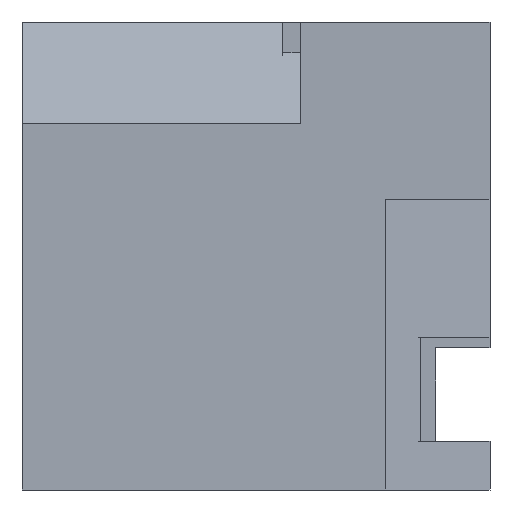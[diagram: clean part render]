
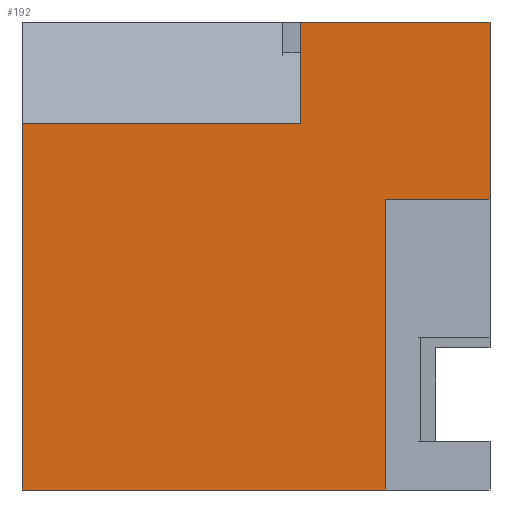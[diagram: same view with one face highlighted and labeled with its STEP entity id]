
A CAD part, left-side view. The second image highlights one B-rep face of the part: STEP entity #192.
In plain terms, the highlighted planar face has unit normal (-1, 0, 0).
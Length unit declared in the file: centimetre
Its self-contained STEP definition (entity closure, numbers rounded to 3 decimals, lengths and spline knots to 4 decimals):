
#60 = CARTESIAN_POINT ( 'NONE',  ( 0., 405.3966, 1000. ) ) ;
#68 = CARTESIAN_POINT ( 'NONE',  ( 0., 1000., 1000. ) ) ;
#93 = LINE ( 'NONE', #1586, #104 ) ;
#104 = VECTOR ( 'NONE', #452, 100. ) ;
#117 = VERTEX_POINT ( 'NONE', #1577 ) ;
#118 = CARTESIAN_POINT ( 'NONE',  ( 0., 1000., 1000. ) ) ;
#133 = VECTOR ( 'NONE', #1251, 100. ) ;
#192 = ADVANCED_FACE ( 'NONE', ( #1007 ), #1394, .F. ) ;
#193 = LINE ( 'NONE', #68, #425 ) ;
#195 = ORIENTED_EDGE ( 'NONE', *, *, #775, .T. ) ;
#230 = LINE ( 'NONE', #510, #133 ) ;
#272 = CARTESIAN_POINT ( 'NONE',  ( 0., 405.3966, 783.8788 ) ) ;
#307 = CARTESIAN_POINT ( 'NONE',  ( 0., 1000., 0. ) ) ;
#329 = LINE ( 'NONE', #1110, #972 ) ;
#339 = ORIENTED_EDGE ( 'NONE', *, *, #550, .F. ) ;
#358 = DIRECTION ( 'NONE',  ( 0., 0., -1. ) ) ;
#364 = VECTOR ( 'NONE', #1281, 100. ) ;
#368 = EDGE_CURVE ( 'NONE', #1351, #1359, #667, .T. ) ;
#381 = DIRECTION ( 'NONE',  ( 1., 0., 0. ) ) ;
#404 = LINE ( 'NONE', #893, #1071 ) ;
#425 = VECTOR ( 'NONE', #1357, 100. ) ;
#452 = DIRECTION ( 'NONE',  ( 0., -1., 0. ) ) ;
#473 = EDGE_CURVE ( 'NONE', #1095, #1608, #863, .T. ) ;
#485 = EDGE_CURVE ( 'NONE', #1239, #1095, #93, .T. ) ;
#510 = CARTESIAN_POINT ( 'NONE',  ( 0., 224.2161, 621.4028 ) ) ;
#512 = CARTESIAN_POINT ( 'NONE',  ( 0., 1000., 783.8788 ) ) ;
#550 = EDGE_CURVE ( 'NONE', #117, #1239, #329, .T. ) ;
#583 = EDGE_CURVE ( 'NONE', #922, #1359, #230, .T. ) ;
#606 = DIRECTION ( 'NONE',  ( 0., 0., 1. ) ) ;
#636 = ORIENTED_EDGE ( 'NONE', *, *, #1148, .T. ) ;
#641 = LINE ( 'NONE', #272, #364 ) ;
#667 = LINE ( 'NONE', #1040, #1585 ) ;
#775 = EDGE_CURVE ( 'NONE', #1511, #1351, #193, .T. ) ;
#820 = VECTOR ( 'NONE', #358, 100. ) ;
#863 = LINE ( 'NONE', #947, #820 ) ;
#878 = ORIENTED_EDGE ( 'NONE', *, *, #473, .F. ) ;
#893 = CARTESIAN_POINT ( 'NONE',  ( 0., 0., 621.4028 ) ) ;
#922 = VERTEX_POINT ( 'NONE', #1255 ) ;
#947 = CARTESIAN_POINT ( 'NONE',  ( 0., 0., 1000. ) ) ;
#972 = VECTOR ( 'NONE', #606, 100. ) ;
#999 = DIRECTION ( 'NONE',  ( 0., 0., -1. ) ) ;
#1007 = FACE_OUTER_BOUND ( 'NONE', #1226, .T. ) ;
#1025 = DIRECTION ( 'NONE',  ( 0., 1., 0. ) ) ;
#1040 = CARTESIAN_POINT ( 'NONE',  ( 0., 1000., 0. ) ) ;
#1067 = AXIS2_PLACEMENT_3D ( 'NONE', #118, #381, #999 ) ;
#1071 = VECTOR ( 'NONE', #1025, 100. ) ;
#1095 = VERTEX_POINT ( 'NONE', #1152 ) ;
#1107 = ORIENTED_EDGE ( 'NONE', *, *, #485, .F. ) ;
#1110 = CARTESIAN_POINT ( 'NONE',  ( 0., 405.3966, 1000. ) ) ;
#1115 = ORIENTED_EDGE ( 'NONE', *, *, #583, .F. ) ;
#1134 = EDGE_CURVE ( 'NONE', #1608, #922, #404, .T. ) ;
#1148 = EDGE_CURVE ( 'NONE', #117, #1511, #641, .T. ) ;
#1152 = CARTESIAN_POINT ( 'NONE',  ( 0., 0., 1000. ) ) ;
#1192 = CARTESIAN_POINT ( 'NONE',  ( 0., 224.2161, 0. ) ) ;
#1226 = EDGE_LOOP ( 'NONE', ( #339, #636, #195, #1246, #1115, #1520, #878, #1107 ) ) ;
#1239 = VERTEX_POINT ( 'NONE', #60 ) ;
#1246 = ORIENTED_EDGE ( 'NONE', *, *, #368, .T. ) ;
#1251 = DIRECTION ( 'NONE',  ( 0., 0., -1. ) ) ;
#1255 = CARTESIAN_POINT ( 'NONE',  ( 0., 224.2161, 621.4028 ) ) ;
#1281 = DIRECTION ( 'NONE',  ( 0., 1., 0. ) ) ;
#1351 = VERTEX_POINT ( 'NONE', #307 ) ;
#1357 = DIRECTION ( 'NONE',  ( 0., 0., -1. ) ) ;
#1359 = VERTEX_POINT ( 'NONE', #1192 ) ;
#1394 = PLANE ( 'NONE',  #1067 ) ;
#1428 = DIRECTION ( 'NONE',  ( 0., -1., 0. ) ) ;
#1452 = CARTESIAN_POINT ( 'NONE',  ( 0., 0., 621.4028 ) ) ;
#1511 = VERTEX_POINT ( 'NONE', #512 ) ;
#1520 = ORIENTED_EDGE ( 'NONE', *, *, #1134, .F. ) ;
#1577 = CARTESIAN_POINT ( 'NONE',  ( 0., 405.3966, 783.8788 ) ) ;
#1585 = VECTOR ( 'NONE', #1428, 100. ) ;
#1586 = CARTESIAN_POINT ( 'NONE',  ( 0., 1000., 1000. ) ) ;
#1608 = VERTEX_POINT ( 'NONE', #1452 ) ;
